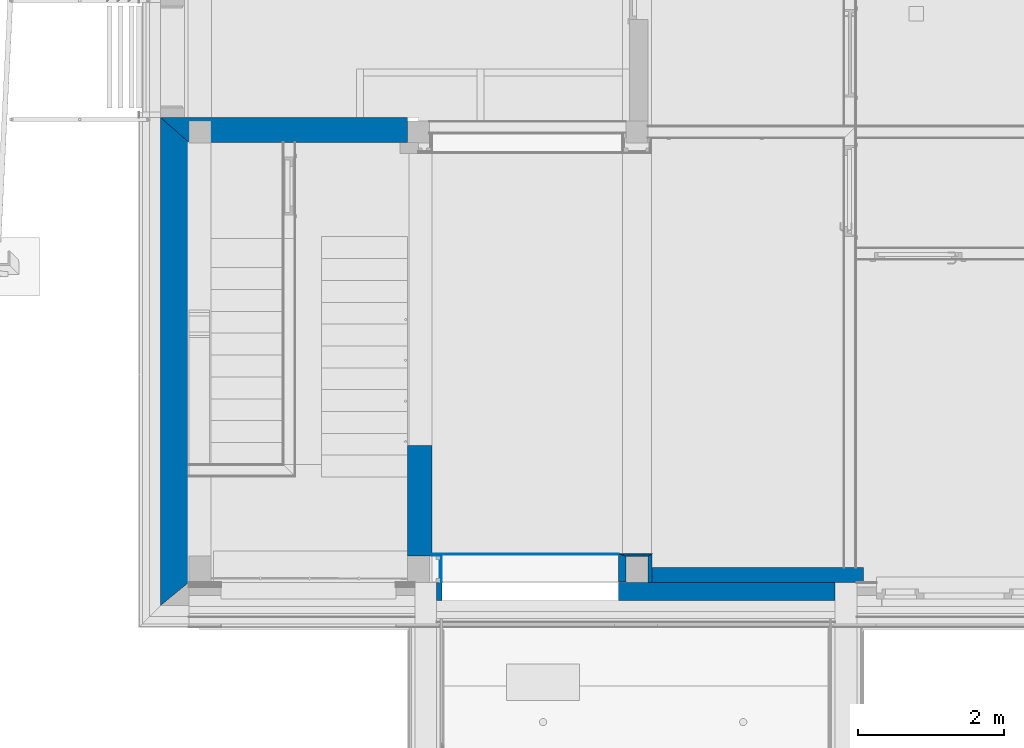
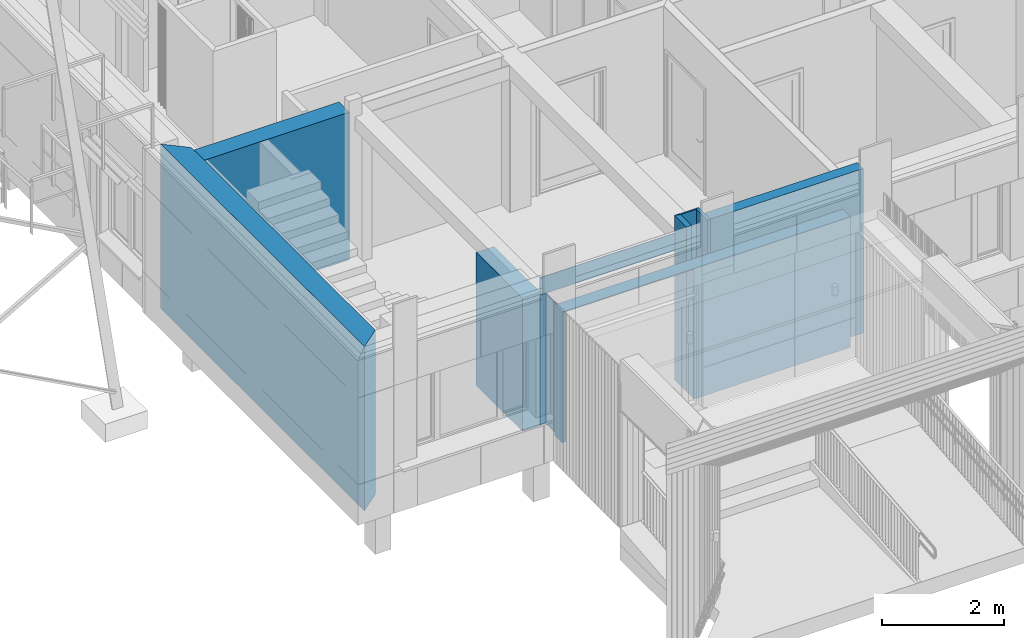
# One storey, part 21 of 418: 13 walls, 1 opening.
"""IFC2X3 building model written with IfcOpenShell, lengths in millimetres."""

from ifc_helpers import new_model, entity, si_unit, converted_unit, derived_unit, money_unit, direction, frame, origin_with_axes, origin_2d_with_axis, place, context, subcontext, project, spatial, polyline, rectangle, outline, extrude, material, layer, layer_set, layer_usage, type_object, element, save


model = new_model("IFC2X3")

# Units and contexts
model_context = context("Model", 3, precision=0.01, world=origin_with_axes(), true_north=direction((0.0, 1.0)))
body_context = subcontext(model_context, "Body", "Model", "MODEL_VIEW")
ifc_project = project(units=[si_unit("LENGTHUNIT", "METRE", prefix="MILLI"), si_unit("AREAUNIT", "SQUARE_METRE"), si_unit("VOLUMEUNIT", "CUBIC_METRE"), converted_unit("PLANEANGLEUNIT", "DEGREE", entity("IfcPlaneAngleMeasure", 0.0174532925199), si_unit("PLANEANGLEUNIT", "RADIAN"), dimensions=[0, 0, 0, 0, 0, 0, 0]), si_unit("SOLIDANGLEUNIT", "STERADIAN"), money_unit("EUR"), converted_unit("TIMEUNIT", "Year", entity("IfcTimeMeasure", 31556926.0), si_unit("TIMEUNIT", "SECOND"), dimensions=[0, 0, 1, 0, 0, 0, 0]), si_unit("MASSUNIT", "GRAM", prefix="KILO"), si_unit("THERMODYNAMICTEMPERATUREUNIT", "DEGREE_CELSIUS"), si_unit("LUMINOUSINTENSITYUNIT", "LUMEN"), si_unit("ENERGYUNIT", "JOULE", prefix="MEGA"), derived_unit("THERMALCONDUCTANCEUNIT", [(si_unit("POWERUNIT", "WATT"), 1), (si_unit("LENGTHUNIT", "METRE"), -1), (si_unit("THERMODYNAMICTEMPERATUREUNIT", "KELVIN"), -1)]), derived_unit("SPECIFICHEATCAPACITYUNIT", [(si_unit("ENERGYUNIT", "JOULE"), 1), (si_unit("MASSUNIT", "GRAM", prefix="KILO"), -1), (si_unit("THERMODYNAMICTEMPERATUREUNIT", "KELVIN"), -1)]), derived_unit("MASSDENSITYUNIT", [(si_unit("MASSUNIT", "GRAM", prefix="KILO"), 1), (si_unit("VOLUMEUNIT", "CUBIC_METRE"), -1)])], contexts=[model_context])

# Site, building, storey
site_placement = place(None, origin_with_axes())
site = spatial("IfcSite", under=ifc_project, at=site_placement, Name="Paldiski mnt 245/1, Tallinn, Harjumaa", CompositionType="COMPLEX")
building_placement = place(site_placement, origin_with_axes())
building = spatial("IfcBuilding", under=site, at=building_placement, Name="RKAS Hoone üldnimetus (kasutust iseloomustav) -> IFC Project Manager -> SOLIBRI", CompositionType="ELEMENT")
storey_placement = place(building_placement, origin_with_axes())
storey = spatial("IfcBuildingStorey", under=building, at=storey_placement, Name="Esimene korrus", CompositionType="ELEMENT", Elevation=0.0)

# Walls
ifc_material_1 = material(Name="KON-00_GENEERILINE - KONSTRUKTSIOON")
ifc_layer_1 = layer(ifc_material_1, 60.0, ventilated="UNKNOWN")
ifc_layer_set_1 = layer_set([ifc_layer_1], Name="KON-00_GENEERILINE - KONSTRUKTSIOON 60")
ifc_layer_usage_1 = layer_usage(ifc_layer_set_1, "AXIS2", "NEGATIVE", 0.0)
wall_type_1 = type_object("IfcWallType", Name="KON-00_GENEERILINE - KONSTRUKTSIOON 60", PredefinedType="NOTDEFINED")
wall_1_placement = place(storey_placement, frame((-41230.0, -12150.0840871, 0.0), z_axis=(0.0, 0.0, 1.0), x_axis=(-2.88081084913e-07, -1.0, 0.0)))
element("IfcWallStandardCase", 1, at=wall_1_placement, inside=storey, type_object=wall_type_1, material=ifc_layer_usage_1, Name="Välissein", context=body_context, shape_type="SweptSolid", body=[
    extrude(outline(polyline([(1.72848597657e-05, -60.0), (360.000231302, -60.0), (360.000214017, 0.0), (-30.0, 0.0), (1.72848597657e-05, -60.0)])), origin_with_axes(), (0.0, 0.0, 1.0), 3300.0),
])
ifc_material_2 = material(Name="Olemasolev silikaltsiitplokk")
ifc_layer_2 = layer(ifc_material_2, 390.0, ventilated="UNKNOWN")
ifc_layer_set_2 = layer_set([ifc_layer_2], Name="Olemasolev silikaltsiitplokk 390")
ifc_layer_usage_2 = layer_usage(ifc_layer_set_2, "AXIS2", "POSITIVE", 0.0)
wall_type_2 = type_object("IfcWallType", Name="Olemasolev silikaltsiitplokk 390", PredefinedType="NOTDEFINED")
wall_2_placement = place(storey_placement, frame((-47590.0, -12510.0843011, 0.0), z_axis=(0.0, 0.0, 1.0), x_axis=(0.0, 1.0, 0.0)))
element("IfcWallStandardCase", 2, at=wall_2_placement, inside=storey, type_object=wall_type_2, material=ifc_layer_usage_2, Name="VS-03", context=body_context, shape_type="SweptSolid", body=[
    extrude(outline(polyline([(0.0, 0.0), (6040.00021402, 0.0), (6380.00021402, 390.0), (-320.0, 390.0), (0.0, 0.0)])), origin_with_axes(), (0.0, 0.0, 1.0), 3300.0),
])
ifc_layer_3 = layer(ifc_material_2, 200.0, ventilated="UNKNOWN")
ifc_layer_set_3 = layer_set([ifc_layer_3], Name="Olemasolev silikaltsiitplokk 200")
ifc_layer_usage_3 = layer_usage(ifc_layer_set_3, "AXIS2", "NEGATIVE", 0.0)
wall_type_3 = type_object("IfcWallType", Name="Olemasolev silikaltsiitplokk 200", PredefinedType="NOTDEFINED")
wall_3_placement = place(storey_placement, frame((-41290.0, -12310.0840871, 0.0), z_axis=(0.0, 0.0, 1.0), x_axis=(1.0, 0.0, 0.0)))
element("IfcWallStandardCase", 3, at=wall_3_placement, inside=storey, type_object=wall_type_3, material=ifc_layer_usage_3, Name="Välissein", context=body_context, shape_type="SweptSolid", body=[
    extrude(outline(polyline([(0.0, -200.0), (2959.99999779, -200.0), (2959.99999779, 0.0), (0.0, 0.0), (0.0, -200.0)])), origin_with_axes(), (0.0, 0.0, 1.0), 3300.0),
])
ifc_layer_4 = layer(ifc_material_1, 30.0, ventilated="UNKNOWN")
ifc_layer_set_4 = layer_set([ifc_layer_4], Name="KON-00_GENEERILINE - KONSTRUKTSIOON 30")
ifc_layer_usage_4 = layer_usage(ifc_layer_set_4, "AXIS2", "POSITIVE", 0.0)
wall_type_4 = type_object("IfcWallType", Name="KON-00_GENEERILINE - KONSTRUKTSIOON 30", PredefinedType="NOTDEFINED")
wall_4_placement = place(storey_placement, frame((-41590.0, -12150.0840871, 0.0), z_axis=(0.0, 0.0, 1.0), x_axis=(1.0, 0.0, 0.0)))
element("IfcWallStandardCase", 4, at=wall_4_placement, inside=storey, type_object=wall_type_4, material=ifc_layer_usage_4, Name="Välissein", context=body_context, shape_type="SweptSolid", body=[
    extrude(outline(polyline([(0.0, 0.0), (300.0, 0.0), (360.000008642, 30.0), (-100.0, 30.0), (0.0, 0.0)])), origin_with_axes(), (0.0, 0.0, 1.0), 3300.0),
])
ifc_layer_5 = layer(ifc_material_1, 100.0, ventilated="UNKNOWN")
ifc_layer_set_5 = layer_set([ifc_layer_5], Name="KON-00_GENEERILINE - KONSTRUKTSIOON 100")
ifc_layer_usage_5 = layer_usage(ifc_layer_set_5, "AXIS2", "NEGATIVE", 0.0)
wall_type_5 = type_object("IfcWallType", Name="KON-00_GENEERILINE - KONSTRUKTSIOON 100", PredefinedType="NOTDEFINED")
wall_5_placement = place(storey_placement, frame((-41590.0, -12150.0840871, 0.0), z_axis=(0.0, 0.0, 1.0), x_axis=(0.0, -1.0, 0.0)))
element("IfcWallStandardCase", 5, at=wall_5_placement, inside=storey, type_object=wall_type_5, material=ifc_layer_usage_5, Name="Välissein", context=body_context, shape_type="SweptSolid", body=[
    extrude(outline(polyline([(-30.0, -100.0), (359.0, -100.0), (359.0, 0.0), (0.0, 0.0), (-30.0, -100.0)])), origin_with_axes(), (0.0, 0.0, 1.0), 3300.0),
])
ifc_material_3 = material(Name="SKR-02_Kipsplaat")
ifc_layer_6 = layer(ifc_material_3, 13.0, ventilated="UNKNOWN")
ifc_layer_set_6 = layer_set([ifc_layer_6], Name="SKR-02_Kipsplaat 13")
ifc_layer_usage_6 = layer_usage(ifc_layer_set_6, "AXIS2", "NEGATIVE", 13.0)
wall_type_6 = type_object("IfcWallType", Name="SKR-02_Kipsplaat 13", PredefinedType="NOTDEFINED")
wall_6_placement = place(storey_placement, frame((-44133.5, -12133.0840871, 0.0), z_axis=(0.0, 0.0, 1.0), x_axis=(-1.0, 0.0, 0.0)))
element("IfcWallStandardCase", 6, at=wall_6_placement, inside=storey, type_object=wall_type_6, material=ifc_layer_usage_6, Name="VS-01.4", context=body_context, shape_type="SweptSolid", body=[
    extrude(outline(polyline([(0.0, 0.0), (116.500021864, 0.0), (116.500021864, 13.0), (13.0, 13.0), (0.0, 0.0)])), origin_with_axes(), (0.0, 0.0, 1.0), 2600.0),
])
ifc_layer_usage_7 = layer_usage(ifc_layer_set_6, "AXIS2", "NEGATIVE", 13.0)
wall_7_placement = place(storey_placement, frame((-44133.5, -12510.0843011, 0.0), z_axis=(0.0, 0.0, 1.0), x_axis=(0.0, 1.0, 0.0)))
element("IfcWallStandardCase", 7, at=wall_7_placement, inside=storey, type_object=wall_type_6, material=ifc_layer_usage_7, Name="VS-01.3", context=body_context, shape_type="SweptSolid", body=[
    extrude(outline(polyline([(0.0, 0.0), (377.000214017, 0.0), (364.000214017, 13.0), (0.0, 13.0), (0.0, 0.0)])), origin_with_axes(), (0.0, 0.0, 1.0), 2600.0),
])
ifc_layer_usage_8 = layer_usage(ifc_layer_set_6, "AXIS2", "NEGATIVE", 13.0)
wall_8_placement = place(storey_placement, frame((-44250.0, -12133.0840871, 2600.0), z_axis=(0.0, 0.0, 1.0), x_axis=(1.0, 0.0, 0.0)))
element("IfcWallStandardCase", 8, at=wall_8_placement, inside=storey, type_object=wall_type_6, material=ifc_layer_usage_8, Name="VS-01.4", context=body_context, shape_type="SweptSolid", body=[
    extrude(outline(polyline([(0.0, 0.0), (2560.0, 0.0), (2560.0, 13.0), (0.0, 13.0), (0.0, 0.0)])), origin_with_axes(), (0.0, 0.0, 1.0), 350.0),
])
ifc_layer_usage_9 = layer_usage(ifc_layer_set_6, "AXIS2", "NEGATIVE", 13.0)
wall_9_placement = place(storey_placement, frame((-44120.5, -12510.0843011, 0.0), z_axis=(0.0, 0.0, 1.0), x_axis=(0.0, 1.0, 0.0)))
element("IfcWallStandardCase", 9, at=wall_9_placement, inside=storey, type_object=wall_type_6, material=ifc_layer_usage_9, Name="VS-01.3", context=body_context, shape_type="SweptSolid", body=[
    extrude(outline(polyline([(0.0, 0.0), (390.000214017, 0.0), (377.000214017, 13.0), (0.0, 13.0), (0.0, 0.0)])), origin_with_axes(), (0.0, 0.0, 1.0), 2600.0),
])
ifc_layer_usage_10 = layer_usage(ifc_layer_set_6, "AXIS2", "NEGATIVE", 13.0)
wall_10_placement = place(storey_placement, frame((-44120.5, -12120.0840871, 0.0), z_axis=(0.0, 0.0, 1.0), x_axis=(-1.0, 0.0, 0.0)))
element("IfcWallStandardCase", 10, at=wall_10_placement, inside=storey, type_object=wall_type_6, material=ifc_layer_usage_10, Name="VS-01.4", context=body_context, shape_type="SweptSolid", body=[
    extrude(outline(polyline([(0.0, 0.0), (129.500021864, 0.0), (129.500021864, 13.0), (13.0, 13.0), (0.0, 0.0)])), origin_with_axes(), (0.0, 0.0, 1.0), 2600.0),
])
ifc_material_4 = material(Name="Olemasolev silikaattellis")
ifc_layer_7 = layer(ifc_material_4, 340.0, ventilated="UNKNOWN")
ifc_layer_set_7 = layer_set([ifc_layer_7], Name="Olemasolev silikaattellis 340")
ifc_layer_usage_11 = layer_usage(ifc_layer_set_7, "AXIS2", "POSITIVE", 0.0)
wall_type_7 = type_object("IfcWallType", Name="Olemasolev silikaattellis 340", PredefinedType="NOTDEFINED")
wall_11_placement = place(storey_placement, frame((-44590.0, -6130.08408706, 0.0), z_axis=(0.0, 0.0, 1.0), x_axis=(-1.0, 0.0, 0.0)))
element("IfcWallStandardCase", 11, at=wall_11_placement, inside=storey, type_object=wall_type_7, material=ifc_layer_usage_11, Name="SS-01", context=body_context, shape_type="SweptSolid", body=[
    extrude(outline(polyline([(0.0, 0.0), (3390.0, 0.0), (3000.0, 340.0), (0.0, 340.0), (0.0, 0.0)])), origin_with_axes(), (0.0, 0.0, 1.0), 2958.99991095),
])
ifc_layer_usage_12 = layer_usage(ifc_layer_set_7, "AXIS2", "POSITIVE", 0.0)
wall_12_placement = place(storey_placement, frame((-44590.0, -10630.0402139, 0.0), z_axis=(0.0, 0.0, 1.0), x_axis=(0.0, -1.0, 0.0)))
element("IfcWallStandardCase", 12, at=wall_12_placement, inside=storey, type_object=wall_type_7, material=ifc_layer_usage_12, Name="SS-01", context=body_context, shape_type="SweptSolid", body=[
    extrude(outline(polyline([(0.0, 0.0), (1520.04387313, 0.0), (1520.04387313, 340.0), (0.0, 340.0), (0.0, 0.0)])), origin_with_axes(), (0.0, 0.0, 1.0), 2670.0),
])

# Wall, opening
ifc_layer_8 = layer(ifc_material_1, 250.0, ventilated="UNKNOWN")
ifc_layer_set_8 = layer_set([ifc_layer_8], Name="KON-00_GENEERILINE - KONSTRUKTSIOON 250")
ifc_layer_usage_13 = layer_usage(ifc_layer_set_8, "AXIS2", "POSITIVE", 0.0)
wall_type_8 = type_object("IfcWallType", Name="KON-00_GENEERILINE - KONSTRUKTSIOON 250", PredefinedType="NOTDEFINED")
wall_13_placement = place(storey_placement, frame((-38720.0, -12510.0843011, 0.0), z_axis=(0.0, 0.0, 1.0), x_axis=(-1.0, 0.0, 0.0)))
wall_13 = element("IfcWallStandardCase", 13, at=wall_13_placement, inside=storey, type_object=wall_type_8, material=ifc_layer_usage_13, Name="SEIN", context=body_context, shape_type="SweptSolid", body=[
    extrude(outline(polyline([(0.0, 0.0), (5470.0, 0.0), (5470.0, 250.0), (0.0, 250.0), (0.0, 0.0)])), origin_with_axes(), (0.0, 0.0, 1.0), 2620.0),
])
opening_placement = place(wall_13_placement, frame((4184.75, 0.0, 0.0), z_axis=(0.0, 0.0, 1.0), x_axis=(1.0, 0.0, 0.0)))
element("IfcOpeningElement", 14, at=opening_placement, cuts=wall_13, Name="AVA", context=body_context, shape_type="SweptSolid", body=[
    extrude(rectangle(XDim=2429.5, YDim=2600.0, at=origin_2d_with_axis()), frame((0.0, 250.0, 1300.0), z_axis=(0.0, -1.0, 0.0), x_axis=(1.0, 0.0, 0.0)), (0.0, 0.0, -1.0), 250.0),
    extrude(rectangle(XDim=2429.5, YDim=2600.0, at=origin_2d_with_axis()), frame((0.0, 250.0, 1300.0), z_axis=(0.0, 1.0, 0.0), x_axis=(1.0, 0.0, 0.0)), (0.0, 0.0, -1.0), 250.0),
])

save(model, "model.ifc")
